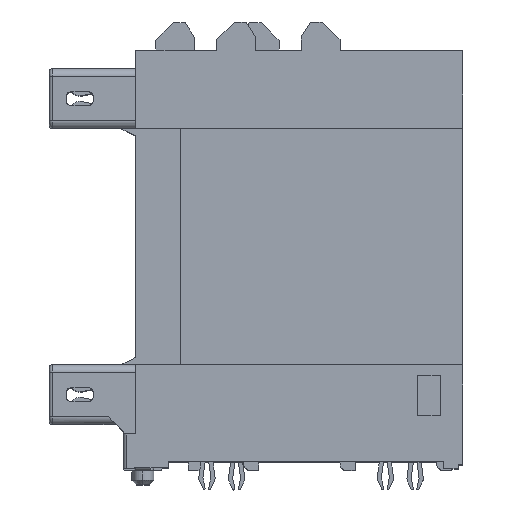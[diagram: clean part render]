
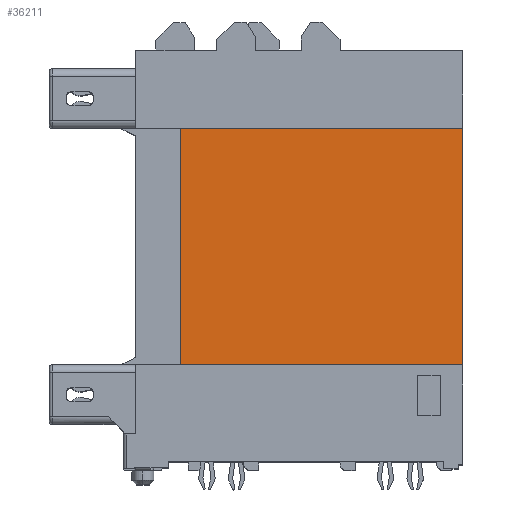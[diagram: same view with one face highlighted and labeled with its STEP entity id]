
A CAD part, top view. The second image highlights one B-rep face of the part: STEP entity #36211.
In plain terms, the highlighted planar face has unit normal (0, 0, 1).
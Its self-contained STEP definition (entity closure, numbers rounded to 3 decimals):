
#2032=DIRECTION('',(0.,1.,0.));
#2033=VECTOR('',#2032,15.9);
#2034=CARTESIAN_POINT('',(22.9,6.72,9.935));
#2035=LINE('',#2034,#2033);
#4968=DIRECTION('',(-1.,0.,0.));
#4969=VECTOR('',#4968,18.99);
#4970=CARTESIAN_POINT('',(22.9,22.62,9.935));
#4971=LINE('',#4970,#4969);
#9416=DIRECTION('',(0.,1.,0.));
#9417=VECTOR('',#9416,15.9);
#9418=CARTESIAN_POINT('',(3.91,6.72,9.935));
#9419=LINE('',#9418,#9417);
#9420=DIRECTION('',(-1.,0.,0.));
#9421=VECTOR('',#9420,18.99);
#9422=CARTESIAN_POINT('',(22.9,6.72,9.935));
#9423=LINE('',#9422,#9421);
#18273=CARTESIAN_POINT('',(3.91,6.72,9.935));
#18274=VERTEX_POINT('',#18273);
#18275=CARTESIAN_POINT('',(22.9,6.72,9.935));
#18276=VERTEX_POINT('',#18275);
#18647=CARTESIAN_POINT('',(22.9,22.62,9.935));
#18648=VERTEX_POINT('',#18647);
#18969=CARTESIAN_POINT('',(3.91,22.62,9.935));
#18970=VERTEX_POINT('',#18969);
#36199=CARTESIAN_POINT('',(0.91,22.62,9.935));
#36200=DIRECTION('',(0.,0.,-1.));
#36201=DIRECTION('',(0.,-1.,0.));
#36202=AXIS2_PLACEMENT_3D('',#36199,#36200,#36201);
#36203=PLANE('',#36202);
#36205=ORIENTED_EDGE('',*,*,#36204,.T.);
#36206=ORIENTED_EDGE('',*,*,#29414,.F.);
#36207=ORIENTED_EDGE('',*,*,#24875,.F.);
#36208=ORIENTED_EDGE('',*,*,#24977,.T.);
#36209=EDGE_LOOP('',(#36205,#36206,#36207,#36208));
#36210=FACE_OUTER_BOUND('',#36209,.F.);
#36211=ADVANCED_FACE('',(#36210),#36203,.F.);
#24875=EDGE_CURVE('',#18276,#18648,#2035,.T.);
#24977=EDGE_CURVE('',#18276,#18274,#9423,.T.);
#29414=EDGE_CURVE('',#18648,#18970,#4971,.T.);
#36204=EDGE_CURVE('',#18274,#18970,#9419,.T.);
